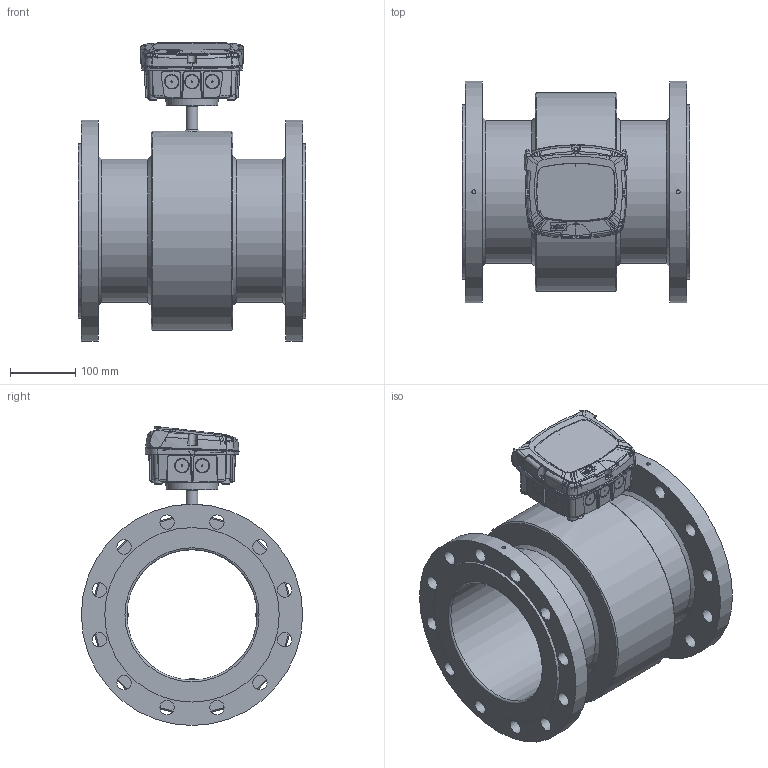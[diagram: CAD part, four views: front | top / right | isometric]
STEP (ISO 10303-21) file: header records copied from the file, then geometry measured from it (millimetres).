
FILE_DESCRIPTION((''),'2;1');
FILE_NAME('C:\Users\Claus\Dropbox\Projects 2011 - 2012\MJK Automation AS\DN 200 - DIN EN-1095-1.stp','2014-10-24T15:15:46',('Claus'),(''),'Autodesk Inventor 2013','Autodesk Inventor 2013','');
FILE_SCHEMA(('AUTOMOTIVE_DESIGN { 1 0 10303 214 1 1 1 1 }'));
Length unit declared in the file: millimetre
Products named in the file (7): DN 200 - DIN EN-1095-1; FC_MagFlux_assembly_r1; CH Bund ml; FC Top rev 06.04; CH 03.02; Electrode group DN15 - DN32
Assembly tree (8 placements, depth 3):
  DN 200 - DIN EN-1095-1
    DN 200 - DIN EN-1095-1
    FC_MagFlux_assembly_r1
      CH Bund ml
      FC Top rev 06.04
      CH 03.02
    Electrode group DN15 - DN32  x3
Bounding box: 350 x 340 x 459.34 mm (x, y, z)
Volume: 9880252.2 mm3; surface area: 1078699.2 mm2
Topology: 10 solids, 10 shells, 2943 faces, 8018 edges, 5219 vertices
Faces by surface type: bspline 1752, plane 810, cylinder 218, cone 123, torus 25, revolution 9, sphere 6
Full cylindrical faces by diameter (mm): 2.5 x3, 3 x6, 4 x1, 6 x2, 6.5 x4, 7.042 x4, 8 x3, 8.048 x4, 12.072 x4, 15 x1, 18 x1, 18.108 x1, 22 x24, 64 x1, 200 x1, 220 x2, 268 x2, 306 x1, 340 x2
Entity records: 234332 total; most frequent: CARTESIAN_POINT 171604, ORIENTED_EDGE 15528, DIRECTION 7805, EDGE_CURVE 7764, VERTEX_POINT 5157, EDGE_LOOP 3305, VECTOR 3112, LINE 3112
